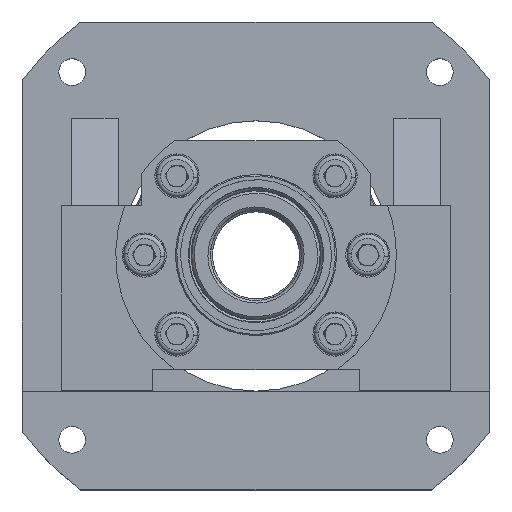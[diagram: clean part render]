
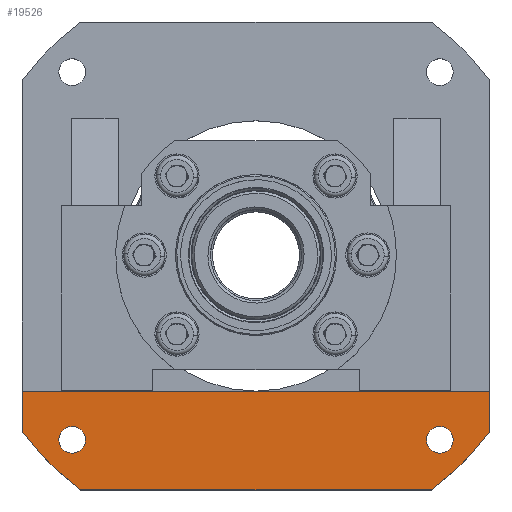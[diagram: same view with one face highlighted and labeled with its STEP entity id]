
A CAD part, top view. The second image highlights one B-rep face of the part: STEP entity #19526.
In plain terms, the highlighted planar face has unit normal (0, 0, 1).
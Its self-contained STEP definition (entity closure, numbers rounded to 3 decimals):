
#64 = CARTESIAN_POINT ( 'NONE',  ( 65.561, -70.711, 21. ) ) ;
#718 = ORIENTED_EDGE ( 'NONE', *, *, #17812, .F. ) ;
#730 = CARTESIAN_POINT ( 'NONE',  ( -90., -52.01, 21. ) ) ;
#913 = CARTESIAN_POINT ( 'NONE',  ( 90., 90., 21. ) ) ;
#983 = DIRECTION ( 'NONE',  ( 1., 0., 0. ) ) ;
#1063 = CARTESIAN_POINT ( 'NONE',  ( -90., -67.5, 21. ) ) ;
#1771 = DIRECTION ( 'NONE',  ( 1., 0., 0. ) ) ;
#1853 = AXIS2_PLACEMENT_3D ( 'NONE', #25830, #13405, #983 ) ;
#2771 = DIRECTION ( 'NONE',  ( 0., -1., 0. ) ) ;
#3145 = EDGE_CURVE ( 'NONE', #9180, #15366, #22176, .T. ) ;
#3729 = EDGE_CURVE ( 'NONE', #18586, #5288, #5254, .T. ) ;
#3968 = DIRECTION ( 'NONE',  ( 1., 0., 0. ) ) ;
#4785 = AXIS2_PLACEMENT_3D ( 'NONE', #26630, #14198, #1771 ) ;
#5254 = LINE ( 'NONE', #17131, #26713 ) ;
#5288 = VERTEX_POINT ( 'NONE', #26849 ) ;
#5344 = CARTESIAN_POINT ( 'NONE',  ( 70.711, -70.711, 21. ) ) ;
#5452 = LINE ( 'NONE', #15193, #21395 ) ;
#5577 = CARTESIAN_POINT ( 'NONE',  ( 0., 0., 21. ) ) ;
#5709 = CARTESIAN_POINT ( 'NONE',  ( -65.561, -70.711, 21. ) ) ;
#6508 = EDGE_CURVE ( 'NONE', #15366, #9180, #22751, .T. ) ;
#6733 = EDGE_CURVE ( 'NONE', #10366, #15791, #9727, .T. ) ;
#7391 = LINE ( 'NONE', #913, #17188 ) ;
#7427 = DIRECTION ( 'NONE',  ( 1., 0., 0. ) ) ;
#7652 = DIRECTION ( 'NONE',  ( 1., 0., 0. ) ) ;
#8195 = VERTEX_POINT ( 'NONE', #16759 ) ;
#8921 = AXIS2_PLACEMENT_3D ( 'NONE', #5344, #19891, #7427 ) ;
#9026 = FACE_BOUND ( 'NONE', #19235, .T. ) ;
#9180 = VERTEX_POINT ( 'NONE', #12513 ) ;
#9282 = ORIENTED_EDGE ( 'NONE', *, *, #19457, .T. ) ;
#9306 = CARTESIAN_POINT ( 'NONE',  ( -70.711, -70.711, 21. ) ) ;
#9333 = CARTESIAN_POINT ( 'NONE',  ( -67.5, -90., 21. ) ) ;
#9667 = CIRCLE ( 'NONE', #14757, 112.5 ) ;
#9727 = LINE ( 'NONE', #18496, #24353 ) ;
#9809 = ORIENTED_EDGE ( 'NONE', *, *, #3145, .F. ) ;
#9925 = CARTESIAN_POINT ( 'NONE',  ( 70.711, -70.711, 21. ) ) ;
#10366 = VERTEX_POINT ( 'NONE', #730 ) ;
#10816 = EDGE_CURVE ( 'NONE', #5288, #8195, #18295, .T. ) ;
#10939 = ORIENTED_EDGE ( 'NONE', *, *, #19227, .T. ) ;
#11401 = DIRECTION ( 'NONE',  ( 1., 0., 0. ) ) ;
#11743 = VERTEX_POINT ( 'NONE', #5709 ) ;
#11849 = PLANE ( 'NONE',  #20310 ) ;
#12038 = DIRECTION ( 'NONE',  ( 1., 0., 0. ) ) ;
#12513 = CARTESIAN_POINT ( 'NONE',  ( 75.861, -70.711, 21. ) ) ;
#12948 = DIRECTION ( 'NONE',  ( 1., 0., 0. ) ) ;
#13405 = DIRECTION ( 'NONE',  ( 0., 0., 1. ) ) ;
#13713 = ORIENTED_EDGE ( 'NONE', *, *, #10816, .T. ) ;
#13949 = DIRECTION ( 'NONE',  ( 1., 0., 0. ) ) ;
#14198 = DIRECTION ( 'NONE',  ( 0., 0., 1. ) ) ;
#14757 = AXIS2_PLACEMENT_3D ( 'NONE', #5577, #20128, #7652 ) ;
#15193 = CARTESIAN_POINT ( 'NONE',  ( -90., 90., 21. ) ) ;
#15222 = FACE_OUTER_BOUND ( 'NONE', #26375, .T. ) ;
#15366 = VERTEX_POINT ( 'NONE', #64 ) ;
#15398 = ORIENTED_EDGE ( 'NONE', *, *, #3729, .T. ) ;
#15791 = VERTEX_POINT ( 'NONE', #21546 ) ;
#15942 = CARTESIAN_POINT ( 'NONE',  ( -104.626, -112., 21. ) ) ;
#16759 = CARTESIAN_POINT ( 'NONE',  ( 90., -67.5, 21. ) ) ;
#17131 = CARTESIAN_POINT ( 'NONE',  ( -90., -90., 21. ) ) ;
#17188 = VECTOR ( 'NONE', #17520, 1000. ) ;
#17520 = DIRECTION ( 'NONE',  ( 0., 1., 0. ) ) ;
#17812 = EDGE_CURVE ( 'NONE', #11743, #19256, #25958, .T. ) ;
#18295 = CIRCLE ( 'NONE', #4785, 112.5 ) ;
#18353 = AXIS2_PLACEMENT_3D ( 'NONE', #9925, #24480, #12038 ) ;
#18431 = CIRCLE ( 'NONE', #21325, 5.15 ) ;
#18496 = CARTESIAN_POINT ( 'NONE',  ( -91.047, -52.01, 21. ) ) ;
#18586 = VERTEX_POINT ( 'NONE', #9333 ) ;
#19227 = EDGE_CURVE ( 'NONE', #8195, #15791, #7391, .T. ) ;
#19235 = EDGE_LOOP ( 'NONE', ( #25332, #9809 ) ) ;
#19256 = VERTEX_POINT ( 'NONE', #19610 ) ;
#19415 = ORIENTED_EDGE ( 'NONE', *, *, #26378, .F. ) ;
#19457 = EDGE_CURVE ( 'NONE', #20215, #18586, #9667, .T. ) ;
#19526 = ADVANCED_FACE ( 'NONE', ( #15222, #9026, #20088 ), #11849, .T. ) ;
#19610 = CARTESIAN_POINT ( 'NONE',  ( -75.861, -70.711, 21. ) ) ;
#19891 = DIRECTION ( 'NONE',  ( 0., 0., 1. ) ) ;
#20088 = FACE_BOUND ( 'NONE', #24455, .T. ) ;
#20128 = DIRECTION ( 'NONE',  ( 0., 0., 1. ) ) ;
#20215 = VERTEX_POINT ( 'NONE', #1063 ) ;
#20310 = AXIS2_PLACEMENT_3D ( 'NONE', #15942, #26384, #13949 ) ;
#21041 = EDGE_CURVE ( 'NONE', #10366, #20215, #5452, .T. ) ;
#21325 = AXIS2_PLACEMENT_3D ( 'NONE', #9306, #23825, #11401 ) ;
#21395 = VECTOR ( 'NONE', #2771, 1000. ) ;
#21546 = CARTESIAN_POINT ( 'NONE',  ( 90., -52.01, 21. ) ) ;
#22176 = CIRCLE ( 'NONE', #8921, 5.15 ) ;
#22751 = CIRCLE ( 'NONE', #18353, 5.15 ) ;
#23825 = DIRECTION ( 'NONE',  ( 0., 0., 1. ) ) ;
#24353 = VECTOR ( 'NONE', #3968, 1000. ) ;
#24455 = EDGE_LOOP ( 'NONE', ( #19415, #718 ) ) ;
#24480 = DIRECTION ( 'NONE',  ( 0., 0., 1. ) ) ;
#25332 = ORIENTED_EDGE ( 'NONE', *, *, #6508, .F. ) ;
#25639 = ORIENTED_EDGE ( 'NONE', *, *, #21041, .T. ) ;
#25699 = ORIENTED_EDGE ( 'NONE', *, *, #6733, .F. ) ;
#25830 = CARTESIAN_POINT ( 'NONE',  ( -70.711, -70.711, 21. ) ) ;
#25958 = CIRCLE ( 'NONE', #1853, 5.15 ) ;
#26375 = EDGE_LOOP ( 'NONE', ( #25699, #25639, #9282, #15398, #13713, #10939 ) ) ;
#26378 = EDGE_CURVE ( 'NONE', #19256, #11743, #18431, .T. ) ;
#26384 = DIRECTION ( 'NONE',  ( 0., 0., 1. ) ) ;
#26630 = CARTESIAN_POINT ( 'NONE',  ( 0., 0., 21. ) ) ;
#26713 = VECTOR ( 'NONE', #12948, 1000. ) ;
#26849 = CARTESIAN_POINT ( 'NONE',  ( 67.5, -90., 21. ) ) ;
